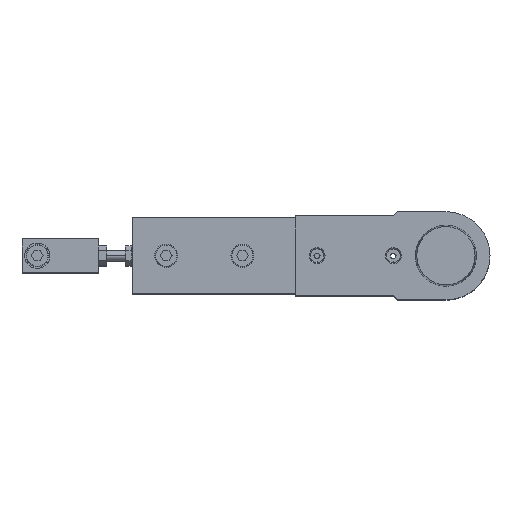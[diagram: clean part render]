
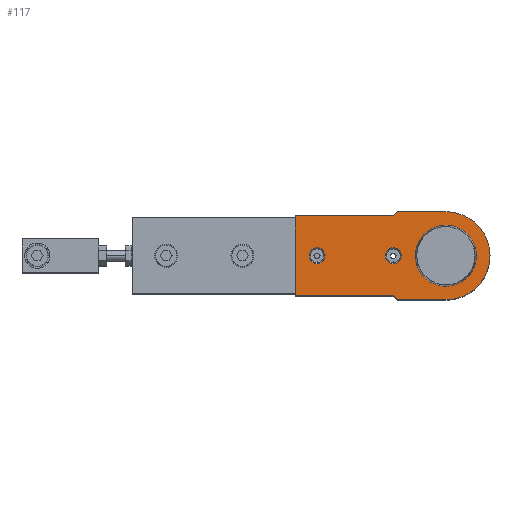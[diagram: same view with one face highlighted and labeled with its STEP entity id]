
A CAD part, top view. The second image highlights one B-rep face of the part: STEP entity #117.
In plain terms, the highlighted planar face has unit normal (0, 0, 1).
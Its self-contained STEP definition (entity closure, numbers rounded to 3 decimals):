
#117 = ADVANCED_FACE ( 'NONE', ( #654, #649, #646, #652 ), #13235, .T. ) ;
#646 = FACE_OUTER_BOUND ( 'NONE', #9667, .T. ) ;
#649 = FACE_BOUND ( 'NONE', #9700, .T. ) ;
#652 = FACE_BOUND ( 'NONE', #9675, .T. ) ;
#654 = FACE_BOUND ( 'NONE', #9709, .T. ) ;
#1126 = ORIENTED_EDGE ( 'NONE', *, *, #6979, .T. ) ;
#1128 = ORIENTED_EDGE ( 'NONE', *, *, #4549, .T. ) ;
#1132 = ORIENTED_EDGE ( 'NONE', *, *, #4465, .F. ) ;
#1140 = ORIENTED_EDGE ( 'NONE', *, *, #7032, .T. ) ;
#1146 = ORIENTED_EDGE ( 'NONE', *, *, #6879, .T. ) ;
#1166 = ORIENTED_EDGE ( 'NONE', *, *, #4491, .F. ) ;
#1170 = ORIENTED_EDGE ( 'NONE', *, *, #4485, .F. ) ;
#1182 = ORIENTED_EDGE ( 'NONE', *, *, #7005, .T. ) ;
#1196 = ORIENTED_EDGE ( 'NONE', *, *, #6946, .F. ) ;
#1217 = ORIENTED_EDGE ( 'NONE', *, *, #4470, .T. ) ;
#1219 = ORIENTED_EDGE ( 'NONE', *, *, #7001, .T. ) ;
#1233 = ORIENTED_EDGE ( 'NONE', *, *, #4474, .F. ) ;
#1342 = ORIENTED_EDGE ( 'NONE', *, *, #6897, .T. ) ;
#1344 = ORIENTED_EDGE ( 'NONE', *, *, #7073, .T. ) ;
#1353 = ORIENTED_EDGE ( 'NONE', *, *, #4559, .F. ) ;
#3501 = CARTESIAN_POINT ( 'NONE',  ( 185., -26., 88. ) ) ;
#3510 = CARTESIAN_POINT ( 'NONE',  ( 154., -23.5, 88. ) ) ;
#3511 = CARTESIAN_POINT ( 'NONE',  ( 96., -23.5, 88. ) ) ;
#3518 = CARTESIAN_POINT ( 'NONE',  ( 167., 0., 88. ) ) ;
#3527 = CARTESIAN_POINT ( 'NONE',  ( 158.7, 0., 88. ) ) ;
#3564 = CARTESIAN_POINT ( 'NONE',  ( 156.5, 26., 88. ) ) ;
#3661 = CARTESIAN_POINT ( 'NONE',  ( 185., 26., 88. ) ) ;
#3666 = CARTESIAN_POINT ( 'NONE',  ( 211., 0., 88. ) ) ;
#3688 = CARTESIAN_POINT ( 'NONE',  ( 154., 23.5, 88. ) ) ;
#3690 = CARTESIAN_POINT ( 'NONE',  ( 156.5, -26., 88. ) ) ;
#3756 = CARTESIAN_POINT ( 'NONE',  ( 149.3, 0., 88. ) ) ;
#3789 = CARTESIAN_POINT ( 'NONE',  ( 113.7, 0., 88. ) ) ;
#3796 = CARTESIAN_POINT ( 'NONE',  ( 203., 0., 88. ) ) ;
#3824 = CARTESIAN_POINT ( 'NONE',  ( 104.3, 0., 88. ) ) ;
#3826 = CARTESIAN_POINT ( 'NONE',  ( 96., 23.5, 88. ) ) ;
#4465 = EDGE_CURVE ( 'NONE', #9318, #9596, #11261, .T. ) ;
#4470 = EDGE_CURVE ( 'NONE', #9488, #9626, #11244, .T. ) ;
#4474 = EDGE_CURVE ( 'NONE', #9589, #9624, #11236, .T. ) ;
#4485 = EDGE_CURVE ( 'NONE', #9556, #9327, #11220, .T. ) ;
#4491 = EDGE_CURVE ( 'NONE', #9327, #9556, #11211, .T. ) ;
#4549 = EDGE_CURVE ( 'NONE', #9311, #9310, #11117, .T. ) ;
#4559 = EDGE_CURVE ( 'NONE', #9624, #9589, #11100, .T. ) ;
#5291 = DIRECTION ( 'NONE',  ( 0., 0., 1. ) ) ;
#5374 = DIRECTION ( 'NONE',  ( -1., 0., 0. ) ) ;
#5375 = DIRECTION ( 'NONE',  ( 0., 0., 1. ) ) ;
#5379 = CARTESIAN_POINT ( 'NONE',  ( 154., 0., 88. ) ) ;
#5427 = DIRECTION ( 'NONE',  ( -1., 0., 0. ) ) ;
#5430 = CARTESIAN_POINT ( 'NONE',  ( 154., 0., 88. ) ) ;
#5456 = DIRECTION ( 'NONE',  ( -1., 0., 0. ) ) ;
#5457 = DIRECTION ( 'NONE',  ( 0., 0., 1. ) ) ;
#5458 = CARTESIAN_POINT ( 'NONE',  ( 109., 0., 88. ) ) ;
#5482 = CARTESIAN_POINT ( 'NONE',  ( 109., 0., 88. ) ) ;
#5494 = DIRECTION ( 'NONE',  ( 1., 0., 0. ) ) ;
#5495 = CARTESIAN_POINT ( 'NONE',  ( 154., -23.5, 88. ) ) ;
#5535 = DIRECTION ( 'NONE',  ( -1., 0., 0. ) ) ;
#5536 = DIRECTION ( 'NONE',  ( 0., 0., 1. ) ) ;
#5562 = DIRECTION ( 'NONE',  ( -1., 0., 0. ) ) ;
#5587 = CARTESIAN_POINT ( 'NONE',  ( 96., 23.5, 88. ) ) ;
#5588 = DIRECTION ( 'NONE',  ( -1., 0., 0. ) ) ;
#5589 = DIRECTION ( 'NONE',  ( 0., 0., 1. ) ) ;
#5591 = CARTESIAN_POINT ( 'NONE',  ( 185., 0., 88. ) ) ;
#5727 = CARTESIAN_POINT ( 'NONE',  ( 156.5, 26., 88. ) ) ;
#5784 = DIRECTION ( 'NONE',  ( -0.707, -0.707, 0. ) ) ;
#6879 = EDGE_CURVE ( 'NONE', #9626, #9311, #10874, .T. ) ;
#6897 = EDGE_CURVE ( 'NONE', #9310, #9490, #10837, .T. ) ;
#6946 = EDGE_CURVE ( 'NONE', #9596, #9318, #10751, .T. ) ;
#6967 = CARTESIAN_POINT ( 'NONE',  ( 96., -23.5, 88. ) ) ;
#6970 = DIRECTION ( 'NONE',  ( 1., 0., 0. ) ) ;
#6972 = CARTESIAN_POINT ( 'NONE',  ( 185., -26., 88. ) ) ;
#6979 = EDGE_CURVE ( 'NONE', #9301, #9466, #10708, .T. ) ;
#7001 = EDGE_CURVE ( 'NONE', #9466, #9461, #10691, .T. ) ;
#7005 = EDGE_CURVE ( 'NONE', #9461, #9364, #10688, .T. ) ;
#7032 = EDGE_CURVE ( 'NONE', #9490, #9301, #10661, .T. ) ;
#7058 = DIRECTION ( 'NONE',  ( -1., 0., 0. ) ) ;
#7060 = CARTESIAN_POINT ( 'NONE',  ( 185., 26., 88. ) ) ;
#7063 = DIRECTION ( 'NONE',  ( -1., 0., 0. ) ) ;
#7065 = DIRECTION ( 'NONE',  ( 0., 0., 1. ) ) ;
#7067 = CARTESIAN_POINT ( 'NONE',  ( 185., 0., 88. ) ) ;
#7073 = EDGE_CURVE ( 'NONE', #9364, #9488, #10653, .T. ) ;
#7120 = DIRECTION ( 'NONE',  ( -1., 0., 0. ) ) ;
#7121 = DIRECTION ( 'NONE',  ( 0., 0., 1. ) ) ;
#7123 = CARTESIAN_POINT ( 'NONE',  ( 185., 0., 88. ) ) ;
#7200 = DIRECTION ( 'NONE',  ( 0., -1., 0. ) ) ;
#7316 = DIRECTION ( 'NONE',  ( -1., 0., 0. ) ) ;
#7319 = DIRECTION ( 'NONE',  ( 0., 0., 1. ) ) ;
#7325 = CARTESIAN_POINT ( 'NONE',  ( 185., 0., 88. ) ) ;
#7760 = DIRECTION ( 'NONE',  ( 0.707, -0.707, 0. ) ) ;
#7777 = CARTESIAN_POINT ( 'NONE',  ( 156.5, -26., 88. ) ) ;
#9301 = VERTEX_POINT ( 'NONE', #3501 ) ;
#9310 = VERTEX_POINT ( 'NONE', #3510 ) ;
#9311 = VERTEX_POINT ( 'NONE', #3511 ) ;
#9318 = VERTEX_POINT ( 'NONE', #3518 ) ;
#9327 = VERTEX_POINT ( 'NONE', #3527 ) ;
#9364 = VERTEX_POINT ( 'NONE', #3564 ) ;
#9461 = VERTEX_POINT ( 'NONE', #3661 ) ;
#9466 = VERTEX_POINT ( 'NONE', #3666 ) ;
#9488 = VERTEX_POINT ( 'NONE', #3688 ) ;
#9490 = VERTEX_POINT ( 'NONE', #3690 ) ;
#9556 = VERTEX_POINT ( 'NONE', #3756 ) ;
#9589 = VERTEX_POINT ( 'NONE', #3789 ) ;
#9596 = VERTEX_POINT ( 'NONE', #3796 ) ;
#9624 = VERTEX_POINT ( 'NONE', #3824 ) ;
#9626 = VERTEX_POINT ( 'NONE', #3826 ) ;
#9667 = EDGE_LOOP ( 'NONE', ( #1342, #1140, #1126, #1219, #1182, #1344, #1217, #1146, #1128 ) ) ;
#9675 = EDGE_LOOP ( 'NONE', ( #1132, #1196 ) ) ;
#9700 = EDGE_LOOP ( 'NONE', ( #1353, #1233 ) ) ;
#9709 = EDGE_LOOP ( 'NONE', ( #1170, #1166 ) ) ;
#10642 = VECTOR ( 'NONE', #5784, 1000. ) ;
#10653 = LINE ( 'NONE', #5727, #10642 ) ;
#10658 = VECTOR ( 'NONE', #6970, 1000. ) ;
#10661 = LINE ( 'NONE', #6972, #10658 ) ;
#10685 = VECTOR ( 'NONE', #7058, 1000. ) ;
#10688 = LINE ( 'NONE', #7060, #10685 ) ;
#10691 = CIRCLE ( 'NONE', #11604, 26. ) ;
#10708 = CIRCLE ( 'NONE', #11550, 26. ) ;
#10751 = CIRCLE ( 'NONE', #11607, 18. ) ;
#10833 = VECTOR ( 'NONE', #7760, 1000. ) ;
#10837 = LINE ( 'NONE', #7777, #10833 ) ;
#10864 = VECTOR ( 'NONE', #7200, 1000. ) ;
#10874 = LINE ( 'NONE', #6967, #10864 ) ;
#11100 = CIRCLE ( 'NONE', #11621, 4.7 ) ;
#11114 = VECTOR ( 'NONE', #5494, 1000. ) ;
#11117 = LINE ( 'NONE', #5495, #11114 ) ;
#11211 = CIRCLE ( 'NONE', #11405, 4.7 ) ;
#11220 = CIRCLE ( 'NONE', #11420, 4.7 ) ;
#11236 = CIRCLE ( 'NONE', #11493, 4.7 ) ;
#11239 = VECTOR ( 'NONE', #5562, 1000. ) ;
#11244 = LINE ( 'NONE', #5587, #11239 ) ;
#11261 = CIRCLE ( 'NONE', #11503, 18. ) ;
#11405 = AXIS2_PLACEMENT_3D ( 'NONE', #5379, #5375, #5374 ) ;
#11420 = AXIS2_PLACEMENT_3D ( 'NONE', #5430, #5291, #5427 ) ;
#11437 = AXIS2_PLACEMENT_3D ( 'NONE', #12767, #13156, #12861 ) ;
#11493 = AXIS2_PLACEMENT_3D ( 'NONE', #5482, #5536, #5535 ) ;
#11503 = AXIS2_PLACEMENT_3D ( 'NONE', #5591, #5589, #5588 ) ;
#11550 = AXIS2_PLACEMENT_3D ( 'NONE', #7123, #7121, #7120 ) ;
#11604 = AXIS2_PLACEMENT_3D ( 'NONE', #7067, #7065, #7063 ) ;
#11607 = AXIS2_PLACEMENT_3D ( 'NONE', #7325, #7319, #7316 ) ;
#11621 = AXIS2_PLACEMENT_3D ( 'NONE', #5458, #5457, #5456 ) ;
#12767 = CARTESIAN_POINT ( 'NONE',  ( 185., 0., 88. ) ) ;
#12861 = DIRECTION ( 'NONE',  ( -1., 0., 0. ) ) ;
#13156 = DIRECTION ( 'NONE',  ( 0., 0., 1. ) ) ;
#13235 = PLANE ( 'NONE',  #11437 ) ;
